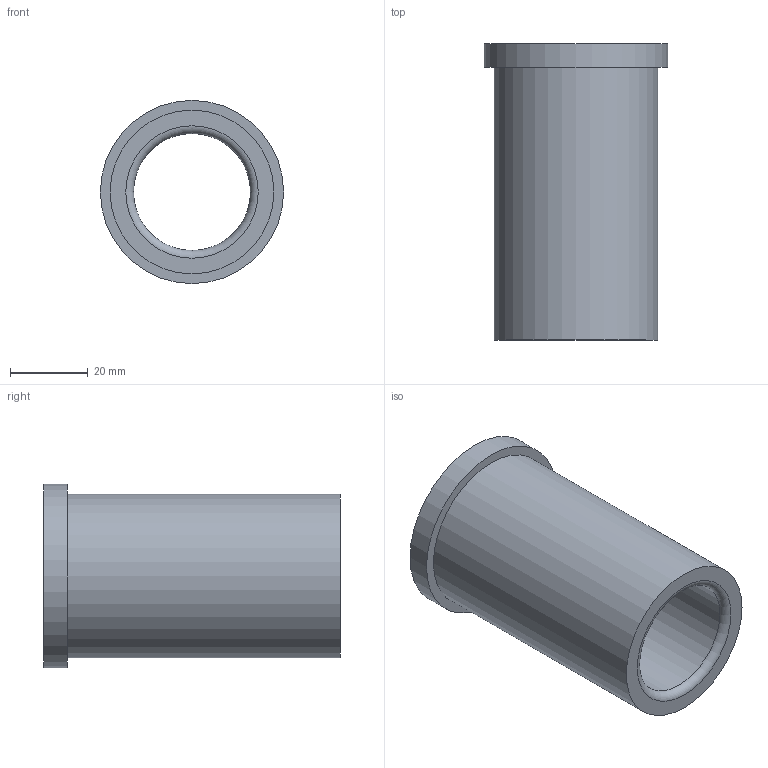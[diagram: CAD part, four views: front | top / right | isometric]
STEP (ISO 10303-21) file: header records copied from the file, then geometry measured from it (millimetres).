
FILE_DESCRIPTION(/* description */ ('STEP AP214'),/* implementation_level */ '2;1');
FILE_NAME(/* name */ '03_12_17943',/* time_stamp */ '2023-06-15T11:35:38+02:00',/* author */ ('License CC BY-ND 4.0'),/* organization */ ('CADENAS'),/* preprocessor_version */ 'ST-DEVELOPER v19.3',/* originating_system */ 'PARTsolutions',/* authorisation */ ' ');
FILE_SCHEMA (('AUTOMOTIVE_DESIGN {1 0 10303 214 3 1 1}'));
Length unit declared in the file: millimetre
Products named in the file (1): VA_Bushing_17943
Bounding box: 47 x 76 x 47 mm (x, y, z)
Volume: 53067.1 mm3; surface area: 19210 mm2
Topology: 1 solids, 1 shells, 10 faces, 16 edges, 10 vertices
Faces by surface type: cylinder 4, plane 4, torus 2
Full cylindrical faces by diameter (mm): 30 x1, 30.6 x1, 42 x1, 47 x1
Entity records: 302 total; most frequent: DIRECTION 42, CARTESIAN_POINT 31, AXIS2_PLACEMENT_3D 21, ORIENTED_EDGE 20, EDGE_LOOP 20, FACE_BOUND 20, EDGE_CURVE 10, VERTEX_POINT 10
